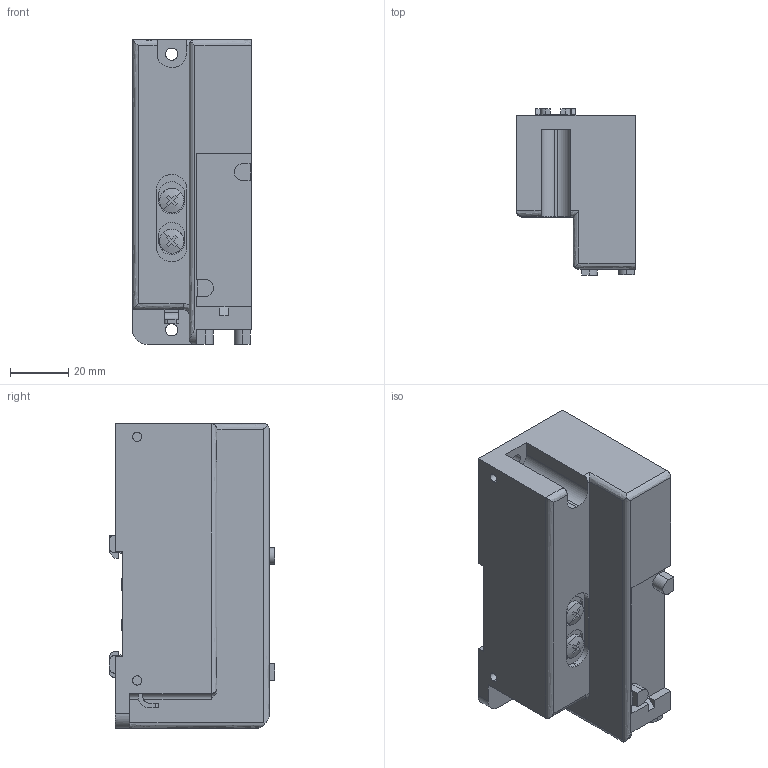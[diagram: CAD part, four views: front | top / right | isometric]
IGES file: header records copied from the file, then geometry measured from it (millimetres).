
Start section: ------------------------------------------------------------------------
Global section: file name: D:\ICADMX\tmp\trans3d_spg\CVICAD02.4564.F15ZX_LK-DN_16498.igs; native system: spGate; preprocessor: ver12.6.6; author: Unknown; organization: Unknown; date: 210712.184719; units: millimetre
Bounding box: 41 x 57.2 x 105 mm (x, y, z)
Volume: 168901.1 mm3; surface area: 25517.4 mm2
Topology: 1 solids, 1 shells, 322 faces, 880 edges, 585 vertices
Faces by surface type: bspline 322
